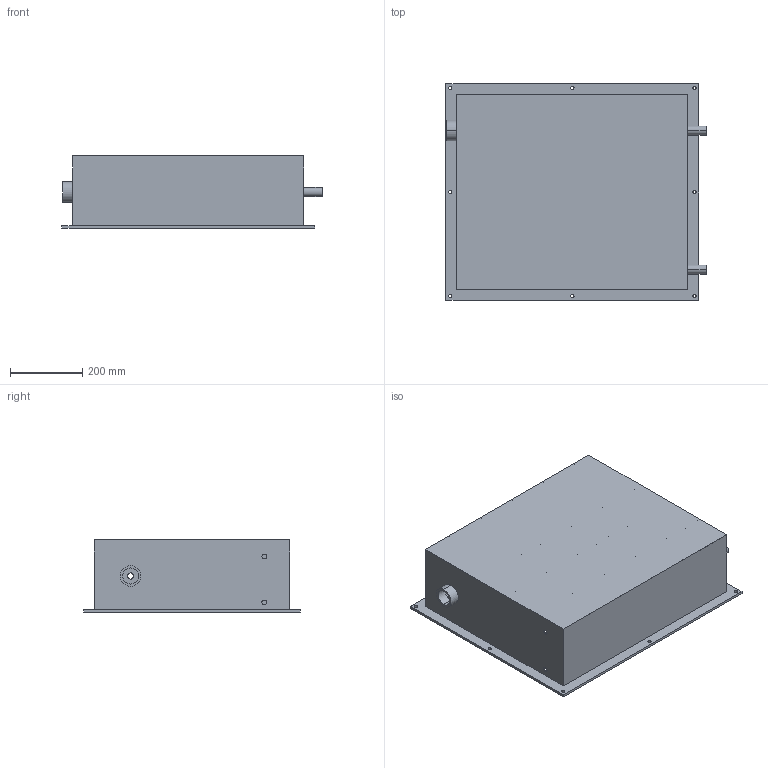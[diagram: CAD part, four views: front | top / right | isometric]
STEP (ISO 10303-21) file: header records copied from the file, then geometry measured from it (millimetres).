
FILE_DESCRIPTION (( 'STEP AP214' ), '1' );
FILE_NAME ('nadrz2.STEP', '2019-07-25T06:53:00', ( '' ), ( '' ), 'SwSTEP 2.0', 'SolidWorks 2016', '' );
FILE_SCHEMA (( 'AUTOMOTIVE_DESIGN' ));
Length unit declared in the file: millimetre
Products named in the file (6): nadrz2; nadrz; natrubek_vstup vystup; prepazka; navarek pro topna telesa; trubka
Assembly tree (8 placements, depth 2):
  nadrz2
    nadrz
    navarek pro topna telesa
    natrubek_vstup vystup  x2
    trubka
    prepazka  x3
Bounding box: 720 x 600 x 200 mm (x, y, z)
Volume: 4327187.6 mm3; surface area: 2648627.9 mm2
Topology: 8 solids, 8 shells, 84 faces, 198 edges, 132 vertices
Faces by surface type: cylinder 42, plane 42
Entity records: 2334 total; most frequent: DIRECTION 392, CARTESIAN_POINT 347, ORIENTED_EDGE 324, EDGE_CURVE 162, AXIS2_PLACEMENT_3D 153, VERTEX_POINT 108, EDGE_LOOP 100, LINE 86
